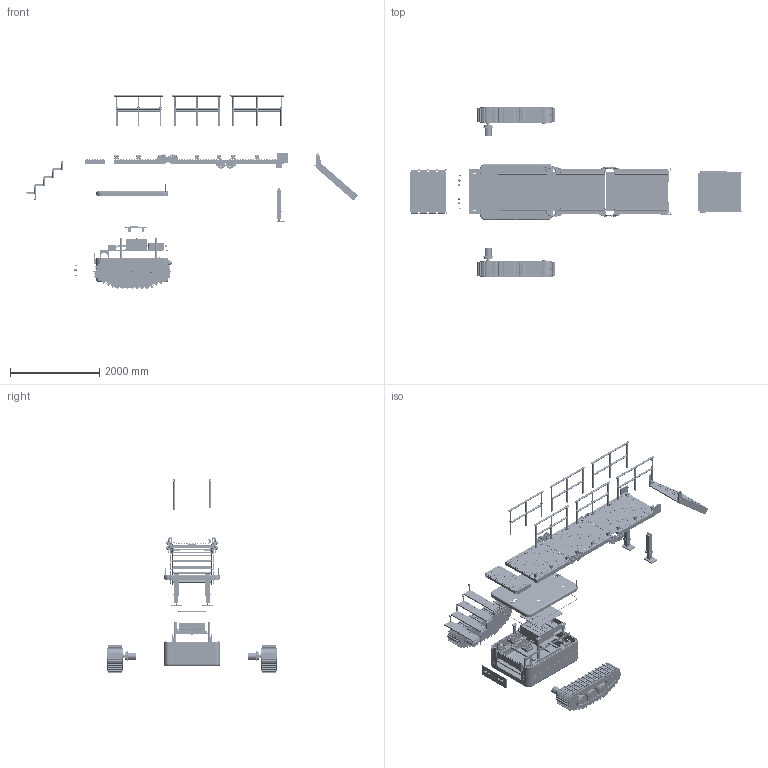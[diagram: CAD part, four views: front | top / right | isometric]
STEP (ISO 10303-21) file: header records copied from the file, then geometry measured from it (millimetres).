
FILE_DESCRIPTION(('Open CASCADE Model'),'2;1');
FILE_NAME('Open CASCADE Shape Model','2026-11-24T20:15:08',('Author'),( 'Open CASCADE'),'Open CASCADE STEP processor 7.9','Open CASCADE 7.9' ,'Unknown');
FILE_SCHEMA(('AUTOMOTIVE_DESIGN { 1 0 10303 214 1 1 1 1 }'));
Length unit declared in the file: centimetre
Products named in the file (676): AKORA_C15_EXPLODED; 01_MAIN_BODY; BODY_LOWER; BODY_LOWER_TUB; BODY_JOINT_FLANGE_INNER; BODY_UPPER; BODY_UPPER_TUB; BODY_JOINT_BEAD; COVER_GASKET; COVER_GASKET_EPDM_10x8; PEDESTAL_GROMMET_600_L; PEDESTAL_GROMMET_600_R; PEDESTAL_GROMMET_1380_L; PEDESTAL_GROMMET_1380_R; SERVICE_PANEL_REAR_GASKET; COVER_INTERLOCK; COVER_SEAT_RING_FEMALE; COVER_LOCKS; COVER_QUARTER_TURN_STUD_01; COVER_RECEPTACLE_01; COVER_QUARTER_TURN_STUD_02; COVER_RECEPTACLE_02; COVER_QUARTER_TURN_STUD_03; COVER_RECEPTACLE_03; COVER_QUARTER_TURN_STUD_04; COVER_RECEPTACLE_04; COVER_QUARTER_TURN_STUD_05; COVER_RECEPTACLE_05; COVER_QUARTER_TURN_STUD_06; COVER_RECEPTACLE_06; COVER_QUARTER_TURN_STUD_07; COVER_RECEPTACLE_07; COVER_QUARTER_TURN_STUD_08; COVER_RECEPTACLE_08; COVER_QUARTER_TURN_STUD_09; COVER_RECEPTACLE_09; COVER_QUARTER_TURN_STUD_10; COVER_RECEPTACLE_10; INTERNAL_FRAME; FRAME_RAIL_L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
Assembly tree (743 placements, depth 5):
  AKORA_C15_EXPLODED
    01_MAIN_BODY
      BODY_LOWER
        BODY_LOWER_TUB
        BODY_JOINT_FLANGE_INNER
      BODY_UPPER
        BODY_UPPER_TUB
        BODY_JOINT_BEAD
      COVER_GASKET
        COVER_GASKET_EPDM_10x8
        PEDESTAL_GROMMET_600_L
        PEDESTAL_GROMMET_600_R
        PEDESTAL_GROMMET_1380_L
        PEDESTAL_GROMMET_1380_R
        SERVICE_PANEL_REAR_GASKET
      COVER_INTERLOCK
        COVER_SEAT_RING_FEMALE
      COVER_LOCKS
        COVER_QUARTER_TURN_STUD_01
        COVER_RECEPTACLE_01
        COVER_QUARTER_TURN_STUD_02
        COVER_RECEPTACLE_02
        COVER_QUARTER_TURN_STUD_03
        COVER_RECEPTACLE_03
        COVER_QUARTER_TURN_STUD_04
        COVER_RECEPTACLE_04
        COVER_QUARTER_TURN_STUD_05
        COVER_RECEPTACLE_05
        COVER_QUARTER_TURN_STUD_06
        COVER_RECEPTACLE_06
        COVER_QUARTER_TURN_STUD_07
        COVER_RECEPTACLE_07
        COVER_QUARTER_TURN_STUD_08
        COVER_RECEPTACLE_08
        COVER_QUARTER_TURN_STUD_09
        COVER_RECEPTACLE_09
        COVER_QUARTER_TURN_STUD_10
        COVER_RECEPTACLE_10
      INTERNAL_FRAME
        FRAME_RAIL_L
        FRAME_RAIL_R
        FRAME_CROSS_1
        FRAME_CROSS_2
        FRAME_CROSS_3
        FRAME_CROSS_4
        FRAME_CROSS_5
        TRACK_MOTOR_PLATE_L
        TRACK_MOTOR_PLATE_R
      MOUNTING_BRACKETS
        FRAME_WALL_BRACKET_L_400
        FRAME_WALL_BRACKET_L_1300
        FRAME_WALL_BRACKET_R_400
        FRAME_WALL_BRACKET_R_1300
        P1_PEDESTAL_600_L
        P1_PEDESTAL_600_R
        P1_PEDESTAL_1380_L
        P1_PEDESTAL_1380_R
        REAR_LANDING_BRACKET_L
        REAR_LANDING_BRACKET_R
      SERVICE_PANELS
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Bounding box: 7427.52 x 3794 x 4350.76 mm (x, y, z)
Volume: 628183892.7 mm3; surface area: 87864523.7 mm2
Topology: 1494 solids, 1498 shells, 16526 faces, 39817 edges, 26536 vertices
Faces by surface type: plane 14101, cylinder 2385, sphere 22, torus 16, revolution 2
Full cylindrical faces by diameter (mm): 8 x18, 9 x20, 9.2 x10, 10 x150, 10.5 x4, 12 x34, 13 x4, 14 x4, 16 x36, 17 x8, 18 x4, 20 x15, 22 x12, 24 x39, 25 x16, 28 x34, 30 x64, 30.6 x40, 32 x22, 34 x36, 36 x4, 37 x54, 40 x96, 41 x8, 42 x54, 44 x11, 48 x24, 56 x2, 60 x5, 62 x4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
Entity records: 931551 total; most frequent: CARTESIAN_POINT 190398, DIRECTION 134825, LINE 95116, VECTOR 95116, ORIENTED_EDGE 69780, PCURVE 69764, DEFINITIONAL_REPRESENTATION 69764, EDGE_CURVE 34882
